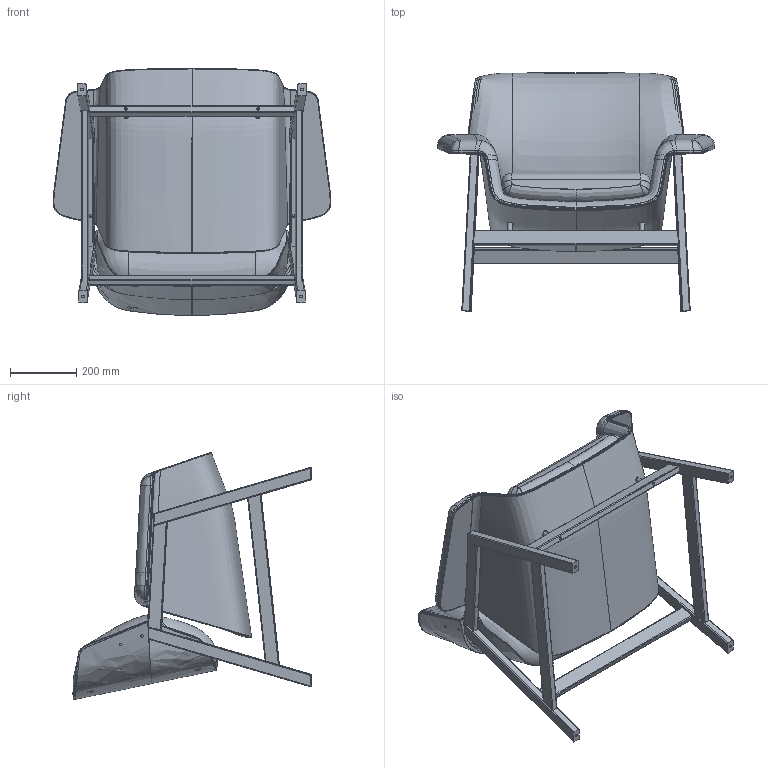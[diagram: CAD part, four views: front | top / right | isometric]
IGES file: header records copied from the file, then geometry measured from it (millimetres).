
Start section: SolidWorks IGES file using analytic representation for surfaces
Global section: file name: W:\design\DWG-PRODOTTI\FRATTINI FRANCO\AGNESE\AGNESE POLTRONA.IGS; native system: SolidWorks 2010; preprocessor: SolidWorks 2010; author: PC20; date: 140613.190219; units: millimetre
Bounding box: 839.3 x 720.97 x 747.13 mm (x, y, z)
Surface area: 6827451.4 mm2 (no closed solid volume)
Topology: 0 solids, 0 shells, 657 faces, 19477 edges, 22886 vertices
Faces by surface type: bspline 443, revolution 214
